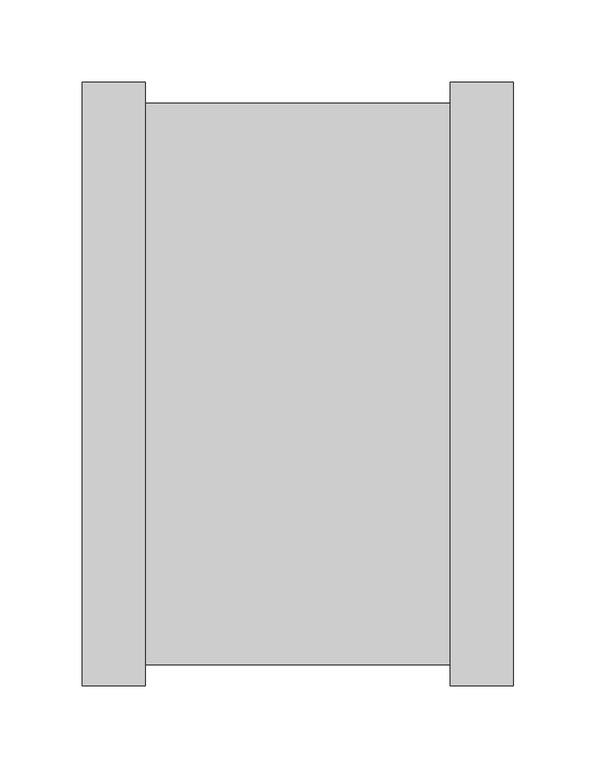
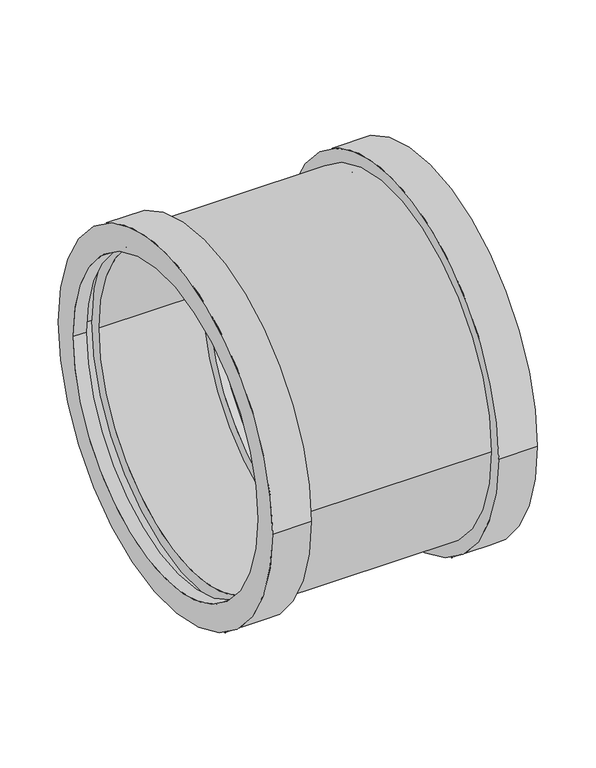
"""IFC4 building model written with IfcOpenShell, lengths in millimetres: pipe fitting geometry, AWADUKT PP Union DSM : Blue No PID."""

from ifc_helpers import new_model, si_unit, frame, origin, place, context, project, spatial, polyline, circle_curve, source, transform, mapped, element, save
from ifc_brep_helpers import plane_surface, cylinder_surface, revolved_surface, advanced_brep


def pipe_fitting_e5a81f0f(model_context):
    return source(origin(), model_context, "Body", "AdvancedBrep", [
        advanced_brep(
        [(-101.75, -157.5, 0.0), (-101.75, 157.5, 0.0), (0.0, 157.5, 0.0), (0.0, -157.5, 0.0), (-114.45, -170.25, 0.0), (-114.45, 170.25, 0.0), (-101.75, 170.25, 0.0), (-101.75, -170.25, 0.0), (-127.2, -157.5, 0.0), (-127.2, 157.5, 0.0), (-114.45, 157.5, 0.0), (-114.45, -157.5, 0.0), (-89.0, -183.0, 0.0), (-89.0, 183.0, 0.0), (-127.2, 183.0, 0.0), (-127.2, -183.0, 0.0), (96.0, -170.25, 0.0), (96.0, 170.25, 0.0), (-89.0, 170.25, 0.0), (-89.0, -170.25, 0.0), (134.2, -183.0, 0.0), (134.2, 183.0, 0.0), (96.0, 183.0, 0.0), (96.0, -183.0, 0.0), (121.45, -157.5, 0.0), (121.45, 157.5, 0.0), (134.2, 157.5, 0.0), (134.2, -157.5, 0.0), (108.75, -170.25, 0.0), (108.75, 170.25, 0.0), (121.45, 170.25, 0.0), (121.45, -170.25, 0.0), (7.0, -157.5, 0.0), (7.0, 157.5, 0.0), (108.75, 157.5, 0.0), (108.75, -157.5, 0.0), (0.0, -144.75, 0.0), (0.0, 144.75, 0.0), (7.0, 144.75, 0.0), (7.0, -144.75, 0.0)],
        [
            (0, 1, circle_curve(frame((-101.75, 0.0, 0.0), z_axis=(-1.0, 0.0, 0.0), x_axis=(0.0, 1.0, 0.0)), 157.5)),
            (1, 2),
            (2, 3, circle_curve(frame((0.0, 0.0, 0.0), z_axis=(1.0, 0.0, 0.0), x_axis=(0.0, 1.0, 0.0)), 157.5)),
            (3, 0),
            (4, 5, circle_curve(frame((-114.45, 0.0, 0.0), z_axis=(-1.0, 0.0, 0.0), x_axis=(0.0, 1.0, 0.0)), 170.25)),
            (5, 6),
            (6, 7, circle_curve(frame((-101.75, 0.0, 0.0), z_axis=(1.0, 0.0, 0.0), x_axis=(0.0, 1.0, 0.0)), 170.25)),
            (7, 4),
            (8, 9, circle_curve(frame((-127.2, 0.0, 0.0), z_axis=(-1.0, 0.0, 0.0), x_axis=(0.0, 1.0, 0.0)), 157.5)),
            (9, 10),
            (10, 11, circle_curve(frame((-114.45, 0.0, 0.0), z_axis=(1.0, 0.0, 0.0), x_axis=(0.0, 1.0, 0.0)), 157.5)),
            (11, 8),
            (12, 13, circle_curve(frame((-89.0, 0.0, 0.0), z_axis=(-1.0, 0.0, 0.0), x_axis=(0.0, 1.0, 0.0)), 183.0)),
            (13, 14),
            (14, 15, circle_curve(frame((-127.2, 0.0, 0.0), z_axis=(1.0, 0.0, 0.0), x_axis=(0.0, 1.0, 0.0)), 183.0)),
            (15, 12),
            (16, 17, circle_curve(frame((96.0, 0.0, 0.0), z_axis=(-1.0, 0.0, 0.0), x_axis=(0.0, 1.0, 0.0)), 170.25)),
            (17, 18),
            (18, 19, circle_curve(frame((-89.0, 0.0, 0.0), z_axis=(1.0, 0.0, 0.0), x_axis=(0.0, 1.0, 0.0)), 170.25)),
            (19, 16),
            (20, 21, circle_curve(frame((134.2, 0.0, 0.0), z_axis=(-1.0, 0.0, 0.0), x_axis=(0.0, 1.0, 0.0)), 183.0)),
            (21, 22),
            (22, 23, circle_curve(frame((96.0, 0.0, 0.0), z_axis=(1.0, 0.0, 0.0), x_axis=(0.0, 1.0, 0.0)), 183.0)),
            (23, 20),
            (24, 25, circle_curve(frame((121.45, 0.0, 0.0), z_axis=(-1.0, 0.0, 0.0), x_axis=(0.0, 1.0, 0.0)), 157.5)),
            (25, 26),
            (26, 27, circle_curve(frame((134.2, 0.0, 0.0), z_axis=(1.0, 0.0, 0.0), x_axis=(0.0, 1.0, 0.0)), 157.5)),
            (27, 24),
            (28, 29, circle_curve(frame((108.75, 0.0, 0.0), z_axis=(-1.0, 0.0, 0.0), x_axis=(0.0, 1.0, 0.0)), 170.25)),
            (29, 30),
            (30, 31, circle_curve(frame((121.45, 0.0, 0.0), z_axis=(1.0, 0.0, 0.0), x_axis=(0.0, 1.0, 0.0)), 170.25)),
            (31, 28),
            (32, 33, circle_curve(frame((7.0, 0.0, 0.0), z_axis=(-1.0, 0.0, 0.0), x_axis=(0.0, 1.0, 0.0)), 157.5)),
            (33, 34),
            (34, 35, circle_curve(frame((108.75, 0.0, 0.0), z_axis=(1.0, 0.0, 0.0), x_axis=(0.0, 1.0, 0.0)), 157.5)),
            (35, 32),
            (36, 37, circle_curve(frame((0.0, 0.0, 0.0), z_axis=(-1.0, 0.0, 0.0), x_axis=(0.0, 1.0, 0.0)), 144.75)),
            (37, 38),
            (38, 39, circle_curve(frame((7.0, 0.0, 0.0), z_axis=(1.0, 0.0, 0.0), x_axis=(0.0, 1.0, 0.0)), 144.75)),
            (39, 36),
            (1, 0, circle_curve(frame((-101.75, 0.0, 0.0), z_axis=(-1.0, 0.0, 0.0), x_axis=(0.0, -1.0, 0.0)), 157.5)),
            (3, 2, circle_curve(frame((0.0, 0.0, 0.0), z_axis=(1.0, 0.0, 0.0), x_axis=(0.0, -1.0, 0.0)), 157.5)),
            (6, 7, circle_curve(frame((-101.75, 0.0, 0.0), z_axis=(-1.0, 0.0, 0.0), x_axis=(0.0, -1.0, 0.0)), 170.25)),
            (5, 4, circle_curve(frame((-114.45, 0.0, 0.0), z_axis=(-1.0, 0.0, 0.0), x_axis=(0.0, -1.0, 0.0)), 170.25)),
            (10, 11, circle_curve(frame((-114.45, 0.0, 0.0), z_axis=(-1.0, 0.0, 0.0), x_axis=(0.0, -1.0, 0.0)), 157.5)),
            (9, 8, circle_curve(frame((-127.2, 0.0, 0.0), z_axis=(-1.0, 0.0, 0.0), x_axis=(0.0, -1.0, 0.0)), 157.5)),
            (14, 15, circle_curve(frame((-127.2, 0.0, 0.0), z_axis=(-1.0, 0.0, 0.0), x_axis=(0.0, -1.0, 0.0)), 183.0)),
            (13, 12, circle_curve(frame((-89.0, 0.0, 0.0), z_axis=(-1.0, 0.0, 0.0), x_axis=(0.0, -1.0, 0.0)), 183.0)),
            (18, 19, circle_curve(frame((-89.0, 0.0, 0.0), z_axis=(-1.0, 0.0, 0.0), x_axis=(0.0, -1.0, 0.0)), 170.25)),
            (17, 16, circle_curve(frame((96.0, 0.0, 0.0), z_axis=(-1.0, 0.0, 0.0), x_axis=(0.0, -1.0, 0.0)), 170.25)),
            (22, 23, circle_curve(frame((96.0, 0.0, 0.0), z_axis=(-1.0, 0.0, 0.0), x_axis=(0.0, -1.0, 0.0)), 183.0)),
            (21, 20, circle_curve(frame((134.2, 0.0, 0.0), z_axis=(-1.0, 0.0, 0.0), x_axis=(0.0, -1.0, 0.0)), 183.0)),
            (26, 27, circle_curve(frame((134.2, 0.0, 0.0), z_axis=(-1.0, 0.0, 0.0), x_axis=(0.0, -1.0, 0.0)), 157.5)),
            (25, 24, circle_curve(frame((121.45, 0.0, 0.0), z_axis=(-1.0, 0.0, 0.0), x_axis=(0.0, -1.0, 0.0)), 157.5)),
            (30, 31, circle_curve(frame((121.45, 0.0, 0.0), z_axis=(-1.0, 0.0, 0.0), x_axis=(0.0, -1.0, 0.0)), 170.25)),
            (29, 28, circle_curve(frame((108.75, 0.0, 0.0), z_axis=(-1.0, 0.0, 0.0), x_axis=(0.0, -1.0, 0.0)), 170.25)),
            (34, 35, circle_curve(frame((108.75, 0.0, 0.0), z_axis=(-1.0, 0.0, 0.0), x_axis=(0.0, -1.0, 0.0)), 157.5)),
            (33, 32, circle_curve(frame((7.0, 0.0, 0.0), z_axis=(-1.0, 0.0, 0.0), x_axis=(0.0, -1.0, 0.0)), 157.5)),
            (38, 39, circle_curve(frame((7.0, 0.0, 0.0), z_axis=(-1.0, 0.0, 0.0), x_axis=(0.0, -1.0, 0.0)), 144.75)),
            (37, 36, circle_curve(frame((0.0, 0.0, 0.0), z_axis=(-1.0, 0.0, 0.0), x_axis=(0.0, -1.0, 0.0)), 144.75)),
        ],
        [
            revolved_surface(polyline([(0.0, 157.5, 0.0), (-101.75, 157.5, 0.0)]), (3.5, 0.0, 0.0), (1.0, 0.0, 0.0)),
            revolved_surface(polyline([(-101.75, 170.25, 0.0), (-114.45, 170.25, 0.0)]), (3.5, 0.0, 0.0), (1.0, 0.0, 0.0)),
            revolved_surface(polyline([(-114.45, 157.5, 0.0), (-127.19999999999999, 157.5, 0.0)]), (3.5, 0.0, 0.0), (1.0, 0.0, 0.0)),
            cylinder_surface(frame((3.5, 0.0, 0.0), z_axis=(1.0, 0.0, 0.0), x_axis=(0.0, 1.0, 0.0)), 183.0),
            cylinder_surface(frame((3.5, 0.0, 0.0), z_axis=(1.0, 0.0, 0.0), x_axis=(0.0, 1.0, 0.0)), 170.25),
            revolved_surface(polyline([(134.2, 157.5, 0.0), (121.45, 157.5, 0.0)]), (3.5, 0.0, 0.0), (1.0, 0.0, 0.0)),
            revolved_surface(polyline([(121.45, 170.25, 0.0), (108.75, 170.25, 0.0)]), (3.5, 0.0, 0.0), (1.0, 0.0, 0.0)),
            revolved_surface(polyline([(108.75, 157.5, 0.0), (7.0, 157.5, 0.0)]), (3.5, 0.0, 0.0), (1.0, 0.0, 0.0)),
            revolved_surface(polyline([(7.0, 144.75, 0.0), (0.0, 144.75, 0.0)]), (3.5, 0.0, 0.0), (1.0, 0.0, 0.0)),
            revolved_surface(polyline([(0.0, -157.5, 0.0), (-101.75, -157.5, 0.0)]), (3.5, 0.0, 0.0), (1.0, 0.0, 0.0)),
            plane_surface(frame((-101.75, 0.0, 0.0), z_axis=(-1.0, 0.0, 0.0), x_axis=(0.0, -1.0, 0.0))),
            revolved_surface(polyline([(-101.75, -170.25, 0.0), (-114.45, -170.25, 0.0)]), (3.5, 0.0, 0.0), (1.0, 0.0, 0.0)),
            plane_surface(frame((-114.45, 0.0, 0.0), z_axis=(1.0, 0.0, 0.0), x_axis=(0.0, -1.0, 0.0))),
            revolved_surface(polyline([(-114.45, -157.5, 0.0), (-127.19999999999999, -157.5, 0.0)]), (3.5, 0.0, 0.0), (1.0, 0.0, 0.0)),
            plane_surface(frame((-127.2, 0.0, 0.0), z_axis=(-1.0, 0.0, 0.0), x_axis=(0.0, -1.0, 0.0))),
            cylinder_surface(frame((3.5, 0.0, 0.0), z_axis=(1.0, 0.0, 0.0), x_axis=(0.0, -1.0, 0.0)), 183.0),
            plane_surface(frame((-89.0, 0.0, 0.0), z_axis=(1.0, 0.0, 0.0), x_axis=(0.0, -1.0, 0.0))),
            cylinder_surface(frame((3.5, 0.0, 0.0), z_axis=(1.0, 0.0, 0.0), x_axis=(0.0, -1.0, 0.0)), 170.25),
            plane_surface(frame((96.0, 0.0, 0.0), z_axis=(-1.0, 0.0, 0.0), x_axis=(0.0, -1.0, 0.0))),
            plane_surface(frame((134.2, 0.0, 0.0), z_axis=(1.0, 0.0, 0.0), x_axis=(0.0, -1.0, 0.0))),
            revolved_surface(polyline([(134.2, -157.5, 0.0), (121.45, -157.5, 0.0)]), (3.5, 0.0, 0.0), (1.0, 0.0, 0.0)),
            plane_surface(frame((121.45, 0.0, 0.0), z_axis=(-1.0, 0.0, 0.0), x_axis=(0.0, -1.0, 0.0))),
            revolved_surface(polyline([(121.45, -170.25, 0.0), (108.75, -170.25, 0.0)]), (3.5, 0.0, 0.0), (1.0, 0.0, 0.0)),
            plane_surface(frame((108.75, 0.0, 0.0), z_axis=(1.0, 0.0, 0.0), x_axis=(0.0, -1.0, 0.0))),
            revolved_surface(polyline([(108.75, -157.5, 0.0), (7.0, -157.5, 0.0)]), (3.5, 0.0, 0.0), (1.0, 0.0, 0.0)),
            plane_surface(frame((7.0, 0.0, 0.0), z_axis=(1.0, 0.0, 0.0), x_axis=(0.0, -1.0, 0.0))),
            revolved_surface(polyline([(7.0, -144.75, 0.0), (0.0, -144.75, 0.0)]), (3.5, 0.0, 0.0), (1.0, 0.0, 0.0)),
            plane_surface(frame((0.0, 0.0, 0.0), z_axis=(-1.0, 0.0, 0.0), x_axis=(0.0, -1.0, 0.0))),
        ],
        [
            (0, [[1, 2, 3, 4]]),
            (1, [[5, 6, 7, 8]]),
            (2, [[9, 10, 11, 12]]),
            (3, [[13, 14, 15, 16]]),
            (4, [[17, 18, 19, 20]]),
            (3, [[21, 22, 23, 24]]),
            (5, [[25, 26, 27, 28]]),
            (6, [[29, 30, 31, 32]]),
            (7, [[33, 34, 35, 36]]),
            (8, [[37, 38, 39, 40]]),
            (9, [[41, -4, 42, -2]]),
            (10, [[43, -7], [-41, -1]]),
            (11, [[44, -8, -43, -6]]),
            (12, [[-44, -5], [45, -11]]),
            (13, [[46, -12, -45, -10]]),
            (14, [[47, -15], [-46, -9]]),
            (15, [[48, -16, -47, -14]]),
            (16, [[-48, -13], [49, -19]]),
            (17, [[50, -20, -49, -18]]),
            (18, [[51, -23], [-50, -17]]),
            (15, [[52, -24, -51, -22]]),
            (19, [[-52, -21], [53, -27]]),
            (20, [[54, -28, -53, -26]]),
            (21, [[55, -31], [-54, -25]]),
            (22, [[56, -32, -55, -30]]),
            (23, [[-56, -29], [57, -35]]),
            (24, [[58, -36, -57, -34]]),
            (25, [[-58, -33], [59, -39]]),
            (26, [[60, -40, -59, -38]]),
            (27, [[-42, -3], [-60, -37]]),
        ],
    ),
    ])


if __name__ == "__main__":
    model = new_model("IFC4")
    model_context = context("Model", 3, world=origin())
    ifc_project = project(units=[si_unit("LENGTHUNIT", "METRE", prefix="MILLI")], contexts=[model_context])
    site = spatial("IfcSite", under=ifc_project)
    building = spatial("IfcBuilding", under=site)
    placement = place(None, origin())
    pipe_fitting_shape = pipe_fitting_e5a81f0f(model_context)
    element("IfcPipeFitting", 1, ObjectType="AWADUKT PP Union DSM : Blue No PID", at=placement, inside=building, context=model_context, shape_type="MappedRepresentation", body=[
        mapped(pipe_fitting_shape, transform((0.0, 0.0, 0.0), x_axis=(1.0, 0.0, 0.0), y_axis=(0.0, 1.0, 0.0), z_axis=(0.0, 0.0, 1.0))),
    ])
    save(model, "model.ifc")
